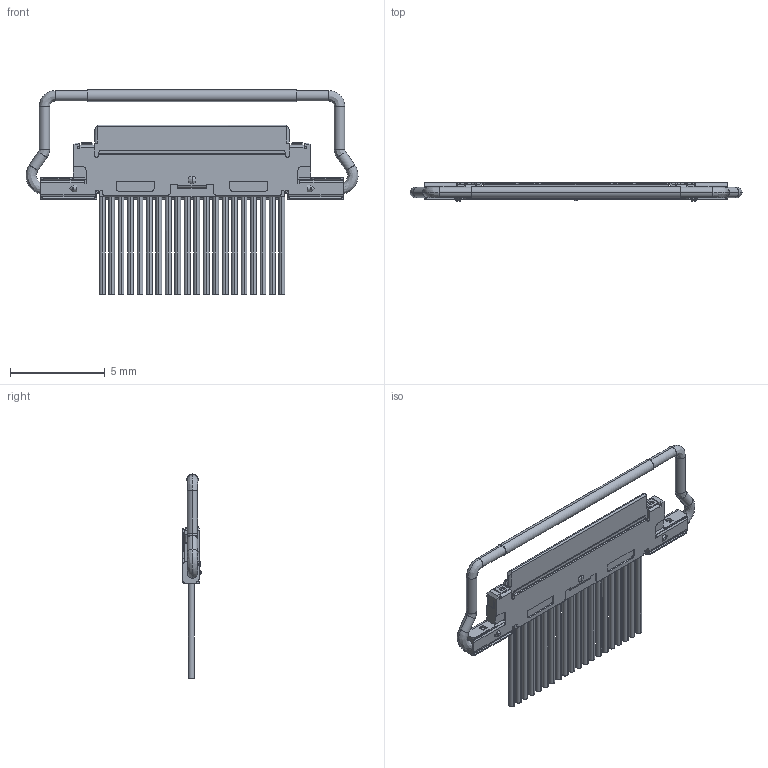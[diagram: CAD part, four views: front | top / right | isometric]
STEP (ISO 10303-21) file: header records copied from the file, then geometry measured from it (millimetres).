
FILE_DESCRIPTION (( 'STEP AP203' ), '1' );
FILE_NAME ('20453-x20T-x3C_PLUG_CABLE_ASS''Y_STEP_R8R1R0_ALL.STEP', '2020-12-16T04:19:32', ( '' ), ( '' ), 'SwSTEP 2.0', 'SolidWorks 2017', '' );
FILE_SCHEMA (( 'CONFIG_CONTROL_DESIGN' ));
Length unit declared in the file: millimetre
Products named in the file (1): 20453-x20T-x3C_PLUG_CABLE_ASS''Y_STEP_R8R1R0_ALL
Bounding box: 17.55 x 1 x 10.79 mm (x, y, z)
Volume: 47.9 mm3; surface area: 302.8 mm2
Topology: 1 solids, 1 shells, 1184 faces, 3250 edges, 2095 vertices
Faces by surface type: plane 796, cylinder 312, cone 42, bspline 34
Entity records: 38461 total; most frequent: CARTESIAN_POINT 9393, ORIENTED_EDGE 6476, DIRECTION 5385, EDGE_CURVE 3238, LINE 2227, VECTOR 2227, VERTEX_POINT 2095, AXIS2_PLACEMENT_3D 1579
